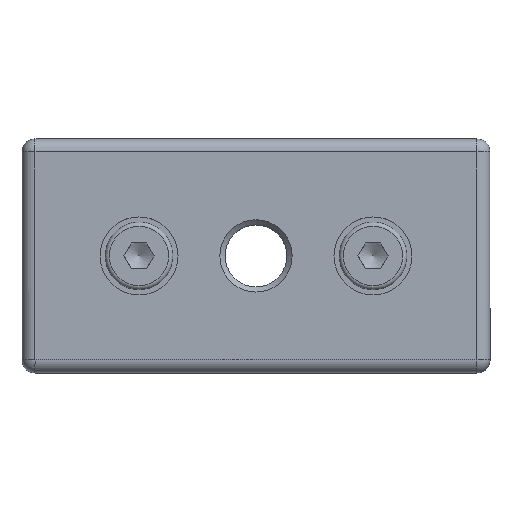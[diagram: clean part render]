
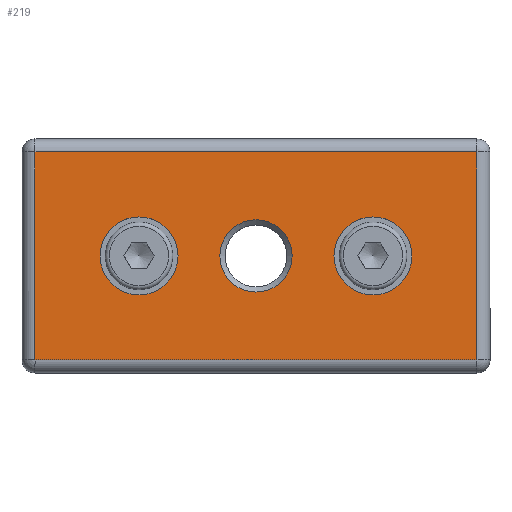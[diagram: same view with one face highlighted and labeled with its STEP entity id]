
A CAD part, top view. The second image highlights one B-rep face of the part: STEP entity #219.
In plain terms, the highlighted planar face has unit normal (0, 0, 1).
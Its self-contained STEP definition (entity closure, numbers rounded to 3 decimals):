
#123=CARTESIAN_POINT('',(-6.953,0.,15.0));
#124=VERTEX_POINT('',#123);
#125=CARTESIAN_POINT('',(0.0,0.0,15.0));
#126=DIRECTION('',(0.0,0.0,1.0));
#127=DIRECTION('',(1.0,0.0,0.0));
#128=AXIS2_PLACEMENT_3D('',#125,#126,#127);
#129=CIRCLE('',#128,6.953);
#130=EDGE_CURVE('',#124,#124,#129,.T.);
#155=CARTESIAN_POINT('',(0.,0.,15.0));
#156=DIRECTION('',(0.0,0.0,1.0));
#157=DIRECTION('',(1.0,0.0,0.0));
#158=AXIS2_PLACEMENT_3D('',#155,#156,#157);
#159=PLANE('',#158);
#160=CARTESIAN_POINT('',(-42.5,20.,15.0));
#161=VERTEX_POINT('',#160);
#162=CARTESIAN_POINT('',(42.5,20.,15.0));
#163=VERTEX_POINT('',#162);
#164=CARTESIAN_POINT('',(-42.5,20.,15.0));
#165=DIRECTION('',(1.0,0.0,0.0));
#166=VECTOR('',#165,85.0);
#167=LINE('',#164,#166);
#168=EDGE_CURVE('',#161,#163,#167,.T.);
#169=ORIENTED_EDGE('',*,*,#168,.F.);
#170=CARTESIAN_POINT('',(-42.5,-20.,15.0));
#171=VERTEX_POINT('',#170);
#172=CARTESIAN_POINT('',(-42.5,-20.,15.0));
#173=DIRECTION('',(0.0,1.0,0.0));
#174=VECTOR('',#173,40.);
#175=LINE('',#172,#174);
#176=EDGE_CURVE('',#171,#161,#175,.T.);
#177=ORIENTED_EDGE('',*,*,#176,.F.);
#178=CARTESIAN_POINT('',(42.5,-20.,15.0));
#179=VERTEX_POINT('',#178);
#180=CARTESIAN_POINT('',(42.5,-20.,15.0));
#181=DIRECTION('',(-1.0,0.0,0.0));
#182=VECTOR('',#181,85.0);
#183=LINE('',#180,#182);
#184=EDGE_CURVE('',#179,#171,#183,.T.);
#185=ORIENTED_EDGE('',*,*,#184,.F.);
#186=CARTESIAN_POINT('',(42.5,20.,15.0));
#187=DIRECTION('',(0.0,-1.0,0.0));
#188=VECTOR('',#187,40.);
#189=LINE('',#186,#188);
#190=EDGE_CURVE('',#163,#179,#189,.T.);
#191=ORIENTED_EDGE('',*,*,#190,.F.);
#192=EDGE_LOOP('',(#169,#177,#185,#191));
#193=FACE_OUTER_BOUND('',#192,.T.);
#194=CARTESIAN_POINT('',(30.0,0.0,15.0));
#195=VERTEX_POINT('',#194);
#196=CARTESIAN_POINT('',(22.5,0.0,15.0));
#197=DIRECTION('',(0.0,0.0,-1.0));
#198=DIRECTION('',(1.0,0.0,0.0));
#199=AXIS2_PLACEMENT_3D('',#196,#197,#198);
#200=CIRCLE('',#199,7.5);
#201=EDGE_CURVE('',#195,#195,#200,.T.);
#202=ORIENTED_EDGE('',*,*,#201,.T.);
#203=EDGE_LOOP('',(#202));
#204=FACE_BOUND('',#203,.T.);
#205=CARTESIAN_POINT('',(-15.,0.0,15.0));
#206=VERTEX_POINT('',#205);
#207=CARTESIAN_POINT('',(-22.5,0.0,15.0));
#208=DIRECTION('',(0.0,0.0,-1.0));
#209=DIRECTION('',(1.0,0.0,0.0));
#210=AXIS2_PLACEMENT_3D('',#207,#208,#209);
#211=CIRCLE('',#210,7.5);
#212=EDGE_CURVE('',#206,#206,#211,.T.);
#213=ORIENTED_EDGE('',*,*,#212,.T.);
#214=EDGE_LOOP('',(#213));
#215=FACE_BOUND('',#214,.T.);
#216=ORIENTED_EDGE('',*,*,#130,.F.);
#217=EDGE_LOOP('',(#216));
#218=FACE_BOUND('',#217,.T.);
#219=ADVANCED_FACE('',(#193,#204,#215,#218),#159,.T.);
